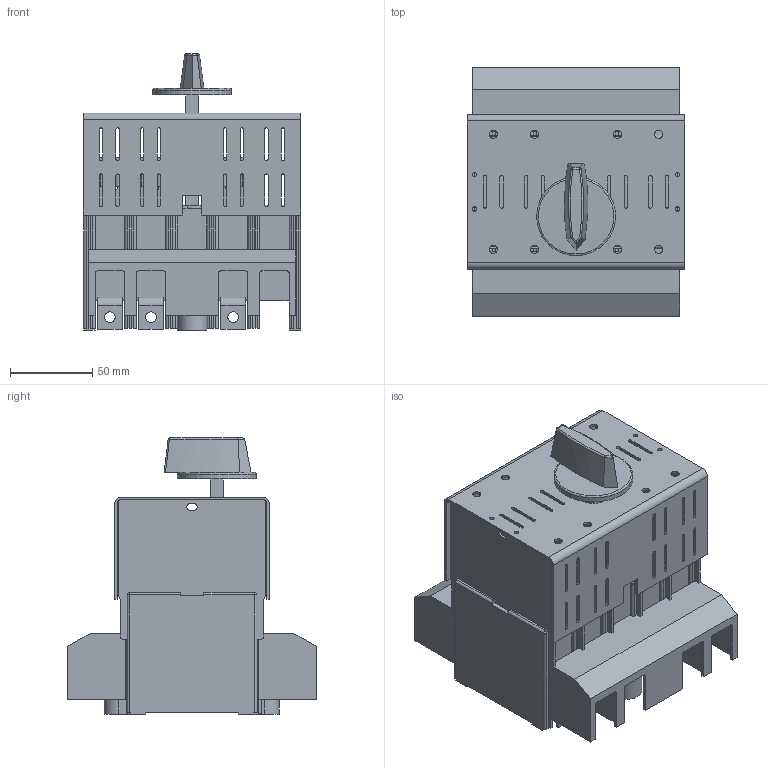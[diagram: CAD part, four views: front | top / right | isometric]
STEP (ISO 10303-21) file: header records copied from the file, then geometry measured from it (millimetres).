
FILE_DESCRIPTION(/* description */ (''),/* implementation_level */ '2;1');
FILE_NAME(/* name */ 'RAB 000 P3 C-R z oslona zaciskow.stp',/* time_stamp */ '2021-08-19T10:44:57+02:00',/* author */ (''),/* organization */ (''),/* preprocessor_version */ 'ST-DEVELOPER v18.1',/* originating_system */ 'SIEMENS PLM Software NX 1965',/* authorisation */ '');
FILE_SCHEMA (('AUTOMOTIVE_DESIGN { 1 0 10303 214 3 1 1 1 }'));
Length unit declared in the file: millimetre
Products named in the file (1): RAB 000 P3 C-R z oslona zaciskow
Bounding box: 132.5 x 151.03 x 168 mm (x, y, z)
Volume: 791586.2 mm3; surface area: 263666.7 mm2
Topology: 1 solids, 1 shells, 1180 faces, 3416 edges, 2215 vertices
Faces by surface type: plane 763, cylinder 336, extrusion 48, sphere 25, bspline 7, torus 1
Full cylindrical faces by diameter (mm): 2.7 x4, 5 x8, 5.8 x2, 6.5 x6, 10 x2, 11.5 x2, 20 x1, 48 x1
Entity records: 39218 total; most frequent: CARTESIAN_POINT 7992, ORIENTED_EDGE 6694, DIRECTION 6175, EDGE_CURVE 3347, VECTOR 2575, LINE 2527, VERTEX_POINT 2184, AXIS2_PLACEMENT_3D 1800
